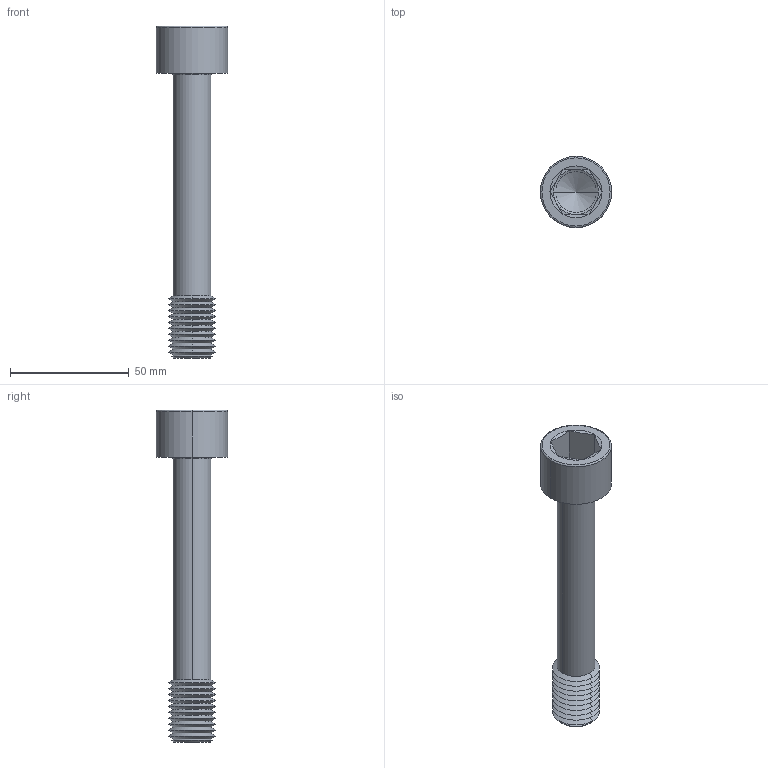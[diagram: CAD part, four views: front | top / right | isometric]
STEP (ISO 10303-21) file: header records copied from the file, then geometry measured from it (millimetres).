
FILE_DESCRIPTION (( 'STEP AP203' ), '1' );
FILE_NAME ('P0154.200-120-BL.step', '2024-06-17T11:40:51', ( '' ), ( '' ), 'SwSTEP 2.0', 'SolidWorks 2019', '' );
FILE_SCHEMA (( 'CONFIG_CONTROL_DESIGN' ));
Length unit declared in the file: millimetre
Products named in the file (1): P0154.200-120-BL
Bounding box: 30 x 30 x 140 mm (x, y, z)
Volume: 33058.2 mm3; surface area: 12147.2 mm2
Topology: 1 solids, 1 shells, 75 faces, 152 edges, 79 vertices
Faces by surface type: cone 52, plane 15, torus 4, cylinder 4
Entity records: 2011 total; most frequent: DIRECTION 372, CARTESIAN_POINT 355, ORIENTED_EDGE 300, AXIS2_PLACEMENT_3D 152, EDGE_CURVE 150, VERTEX_POINT 79, EDGE_LOOP 77, CIRCLE 76
